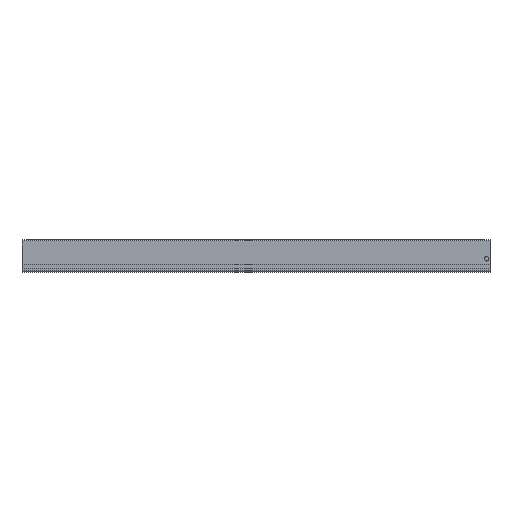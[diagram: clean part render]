
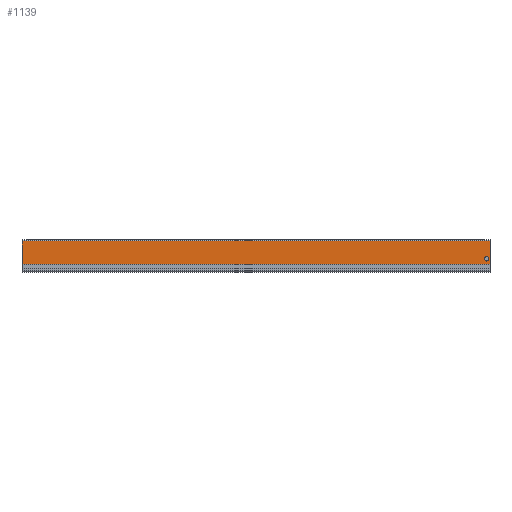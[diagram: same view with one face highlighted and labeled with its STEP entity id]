
A CAD part, top view. The second image highlights one B-rep face of the part: STEP entity #1139.
In plain terms, the highlighted planar face has unit normal (0, 0, 1).
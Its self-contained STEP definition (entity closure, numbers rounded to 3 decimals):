
#77 = VERTEX_POINT ( 'NONE', #205 ) ;
#163 = ORIENTED_EDGE ( 'NONE', *, *, #2281, .F. ) ;
#190 = CARTESIAN_POINT ( 'NONE',  ( 400., 26.7, 0. ) ) ;
#205 = CARTESIAN_POINT ( 'NONE',  ( 0., 26.7, 0. ) ) ;
#258 = CARTESIAN_POINT ( 'NONE',  ( 400., 6.6, 0. ) ) ;
#316 = DIRECTION ( 'NONE',  ( 0., 0., -1. ) ) ;
#334 = ORIENTED_EDGE ( 'NONE', *, *, #2224, .T. ) ;
#378 = VECTOR ( 'NONE', #2227, 1000. ) ;
#410 = VERTEX_POINT ( 'NONE', #258 ) ;
#415 = EDGE_CURVE ( 'NONE', #1073, #612, #497, .T. ) ;
#470 = DIRECTION ( 'NONE',  ( 0., 0., 1. ) ) ;
#482 = CARTESIAN_POINT ( 'NONE',  ( 400., 0., 0. ) ) ;
#497 = CIRCLE ( 'NONE', #1448, 1.85 ) ;
#555 = CARTESIAN_POINT ( 'NONE',  ( 397.15, 11.392, 0. ) ) ;
#595 = LINE ( 'NONE', #190, #1005 ) ;
#612 = VERTEX_POINT ( 'NONE', #1965 ) ;
#635 = FACE_BOUND ( 'NONE', #761, .T. ) ;
#684 = CARTESIAN_POINT ( 'NONE',  ( 400., 26.7, 0. ) ) ;
#701 = ORIENTED_EDGE ( 'NONE', *, *, #854, .F. ) ;
#761 = EDGE_LOOP ( 'NONE', ( #163, #1729 ) ) ;
#820 = VERTEX_POINT ( 'NONE', #1671 ) ;
#854 = EDGE_CURVE ( 'NONE', #1466, #410, #1455, .T. ) ;
#866 = VECTOR ( 'NONE', #2109, 1000. ) ;
#867 = PLANE ( 'NONE',  #1389 ) ;
#942 = LINE ( 'NONE', #1589, #2231 ) ;
#978 = FACE_OUTER_BOUND ( 'NONE', #1531, .T. ) ;
#1005 = VECTOR ( 'NONE', #1266, 1000. ) ;
#1073 = VERTEX_POINT ( 'NONE', #1199 ) ;
#1139 = ADVANCED_FACE ( 'NONE', ( #635, #978 ), #867, .F. ) ;
#1187 = DIRECTION ( 'NONE',  ( -1., 0., 0. ) ) ;
#1199 = CARTESIAN_POINT ( 'NONE',  ( 399., 11.392, 0. ) ) ;
#1243 = ORIENTED_EDGE ( 'NONE', *, *, #1420, .T. ) ;
#1266 = DIRECTION ( 'NONE',  ( -1., 0., 0. ) ) ;
#1389 = AXIS2_PLACEMENT_3D ( 'NONE', #482, #316, #2092 ) ;
#1390 = CARTESIAN_POINT ( 'NONE',  ( 0., 6.6, 0. ) ) ;
#1420 = EDGE_CURVE ( 'NONE', #820, #410, #2260, .T. ) ;
#1448 = AXIS2_PLACEMENT_3D ( 'NONE', #2268, #470, #1187 ) ;
#1455 = LINE ( 'NONE', #1855, #378 ) ;
#1466 = VERTEX_POINT ( 'NONE', #684 ) ;
#1469 = DIRECTION ( 'NONE',  ( 0., -1., 0. ) ) ;
#1531 = EDGE_LOOP ( 'NONE', ( #701, #334, #1930, #1243 ) ) ;
#1589 = CARTESIAN_POINT ( 'NONE',  ( 0., 0., 0. ) ) ;
#1660 = EDGE_CURVE ( 'NONE', #77, #820, #942, .T. ) ;
#1670 = CIRCLE ( 'NONE', #1802, 1.85 ) ;
#1671 = CARTESIAN_POINT ( 'NONE',  ( 0., 6.6, 0. ) ) ;
#1729 = ORIENTED_EDGE ( 'NONE', *, *, #415, .F. ) ;
#1802 = AXIS2_PLACEMENT_3D ( 'NONE', #555, #1806, #2190 ) ;
#1806 = DIRECTION ( 'NONE',  ( 0., 0., 1. ) ) ;
#1855 = CARTESIAN_POINT ( 'NONE',  ( 400., 0., 0. ) ) ;
#1930 = ORIENTED_EDGE ( 'NONE', *, *, #1660, .T. ) ;
#1965 = CARTESIAN_POINT ( 'NONE',  ( 395.3, 11.392, 0. ) ) ;
#2092 = DIRECTION ( 'NONE',  ( -1., 0., 0. ) ) ;
#2109 = DIRECTION ( 'NONE',  ( 1., 0., 0. ) ) ;
#2190 = DIRECTION ( 'NONE',  ( -1., 0., 0. ) ) ;
#2224 = EDGE_CURVE ( 'NONE', #1466, #77, #595, .T. ) ;
#2227 = DIRECTION ( 'NONE',  ( 0., -1., 0. ) ) ;
#2231 = VECTOR ( 'NONE', #1469, 1000. ) ;
#2260 = LINE ( 'NONE', #1390, #866 ) ;
#2268 = CARTESIAN_POINT ( 'NONE',  ( 397.15, 11.392, 0. ) ) ;
#2281 = EDGE_CURVE ( 'NONE', #612, #1073, #1670, .T. ) ;
